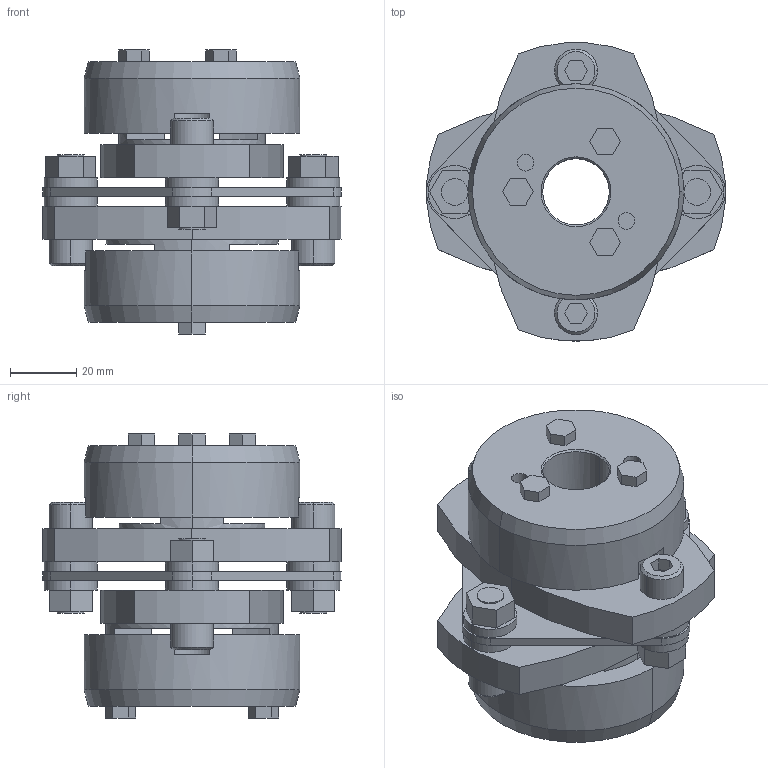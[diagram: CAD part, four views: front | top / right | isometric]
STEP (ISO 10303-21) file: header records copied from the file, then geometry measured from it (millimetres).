
FILE_DESCRIPTION((''),'2;1');
FILE_NAME('LCS-90T7-20×28.stp','2015-11-01T20:28:59',(''),(''),'AutoCAD STEP 2000i','AutoCAD 2000i',', , ');
FILE_SCHEMA(('CONFIG_CONTROL_DESIGN'));
Length unit declared in the file: millimetre
Products named in the file (10): LCS-90T7-20×30; 忣兜1; LC90T7-T020; LC90T7-T030; LC90T7-T025; LC90T7-T019-1; LC90T7-T019; LC90-B019-1; LC90-B019; LCS90-ITA
Assembly tree (9 placements, depth 2):
  LCS-90T7-20×30
    忣兜1
    LC90T7-T020
    LC90T7-T030
    LC90T7-T025
    LC90T7-T019-1
    LC90T7-T019
    LC90-B019-1
    LC90-B019
    LCS90-ITA
Bounding box: 90 x 89.94 x 85.5 mm (x, y, z)
Volume: 222707.3 mm3; surface area: 54926.7 mm2
Topology: 1 solids, 1 shells, 233 faces, 574 edges, 376 vertices
Faces by surface type: plane 129, cylinder 84, cone 20
Entity records: 7177 total; most frequent: DIRECTION 1272, CARTESIAN_POINT 1193, ORIENTED_EDGE 1148, EDGE_CURVE 574, AXIS2_PLACEMENT_3D 455, VERTEX_POINT 376, VECTOR 362, LINE 362
